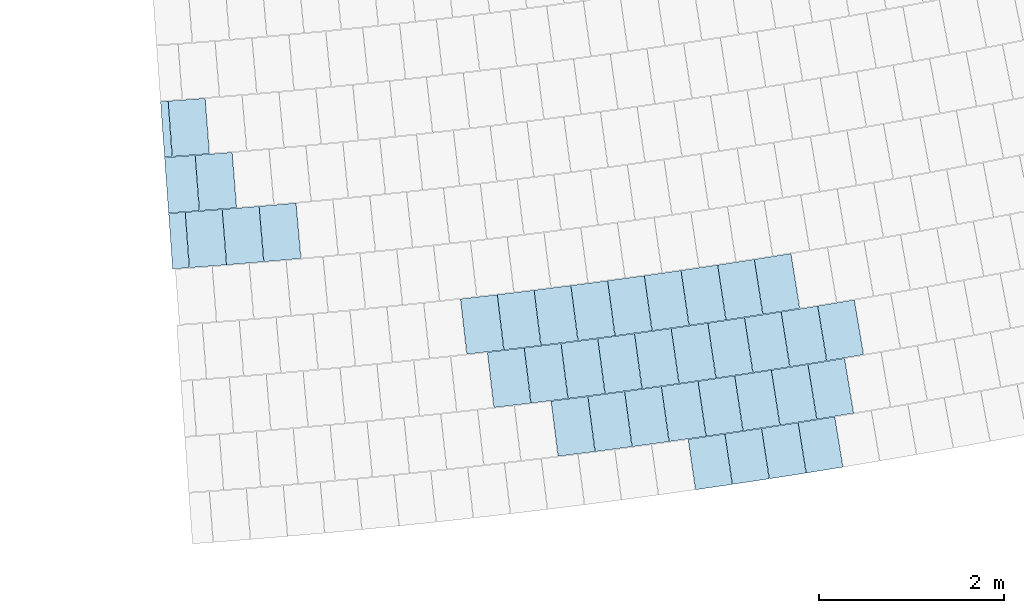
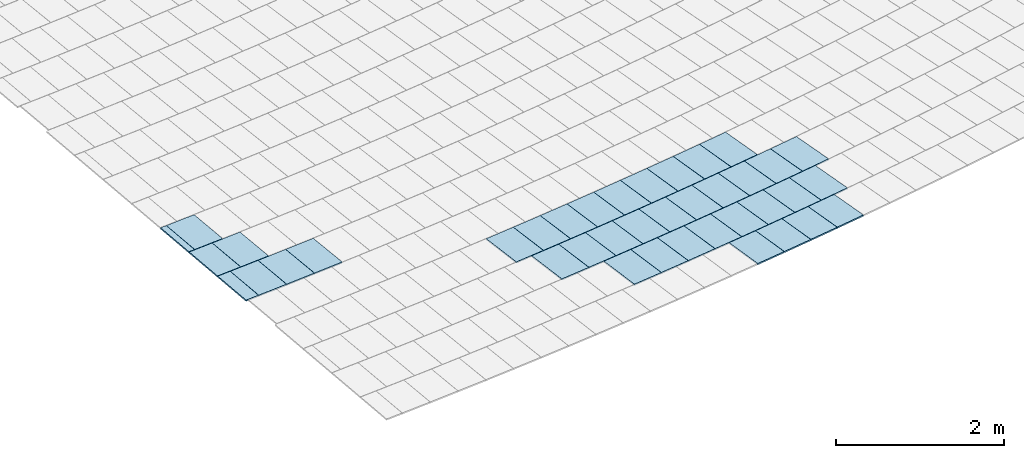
# One storey, part 24 of 438: 39 slabs.
"""IFC2X3 building model written with IfcOpenShell, lengths in millimetres."""

from ifc_helpers import new_model, entity, si_unit, converted_unit, derived_unit, direction, frame, origin, origin_2d_with_axis, place, context, subcontext, project, spatial, polyline, rectangle, outline, extrude, material, layer, layer_set, layer_usage, type_object, element, save


model = new_model("IFC2X3")

# Units and contexts
model_context = context("Model", 3, precision=0.01, world=origin(), true_north=direction((6.123031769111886e-17, 1.0)))
body_context = subcontext(model_context, "Body", "Model", "MODEL_VIEW")
ifc_project = project(units=[si_unit("LENGTHUNIT", "METRE", prefix="MILLI"), si_unit("AREAUNIT", "SQUARE_METRE"), si_unit("VOLUMEUNIT", "CUBIC_METRE"), converted_unit("PLANEANGLEUNIT", "DEGREE", entity("IfcRatioMeasure", 0.017453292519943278), si_unit("PLANEANGLEUNIT", "RADIAN"), dimensions=[0, 0, 0, 0, 0, 0, 0]), si_unit("MASSUNIT", "GRAM", prefix="KILO"), derived_unit("MASSDENSITYUNIT", [(si_unit("MASSUNIT", "GRAM", prefix="KILO"), 1), (si_unit("LENGTHUNIT", "METRE"), -3)]), derived_unit("MOMENTOFINERTIAUNIT", [(si_unit("LENGTHUNIT", "METRE"), 4)]), si_unit("TIMEUNIT", "SECOND"), si_unit("FREQUENCYUNIT", "HERTZ"), si_unit("THERMODYNAMICTEMPERATUREUNIT", "DEGREE_CELSIUS"), derived_unit("THERMALTRANSMITTANCEUNIT", [(si_unit("MASSUNIT", "GRAM", prefix="KILO"), 1), (si_unit("THERMODYNAMICTEMPERATUREUNIT", "KELVIN"), -1), (si_unit("TIMEUNIT", "SECOND"), -3)]), derived_unit("THERMALCONDUCTANCEUNIT", [(si_unit("MASSUNIT", "GRAM", prefix="KILO"), 1), (si_unit("LENGTHUNIT", "METRE"), 1), (si_unit("THERMODYNAMICTEMPERATUREUNIT", "KELVIN"), -1), (si_unit("TIMEUNIT", "SECOND"), -3)]), derived_unit("VOLUMETRICFLOWRATEUNIT", [(si_unit("LENGTHUNIT", "METRE"), 3), (si_unit("TIMEUNIT", "SECOND"), -1)]), derived_unit("MASSFLOWRATEUNIT", [(si_unit("MASSUNIT", "GRAM", prefix="KILO"), 1), (si_unit("TIMEUNIT", "SECOND"), -1)]), derived_unit("ROTATIONALFREQUENCYUNIT", [(si_unit("TIMEUNIT", "SECOND"), -1)]), si_unit("ELECTRICCURRENTUNIT", "AMPERE"), si_unit("ELECTRICVOLTAGEUNIT", "VOLT"), si_unit("POWERUNIT", "WATT"), converted_unit("FORCEUNIT", "KIP", entity("IfcRatioMeasure", 2.088543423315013e-05), si_unit("FORCEUNIT", "NEWTON"), dimensions=[1, 1, -2, 0, 0, 0, 0]), si_unit("ILLUMINANCEUNIT", "LUX"), si_unit("LUMINOUSFLUXUNIT", "LUMEN"), si_unit("LUMINOUSINTENSITYUNIT", "CANDELA"), derived_unit("USERDEFINED", [(si_unit("MASSUNIT", "GRAM", prefix="KILO"), -1), (si_unit("LENGTHUNIT", "METRE"), -2), (si_unit("TIMEUNIT", "SECOND"), 3), (si_unit("LUMINOUSFLUXUNIT", "LUMEN"), 1)]), derived_unit("USERDEFINED", [(si_unit("MASSUNIT", "GRAM", prefix="KILO"), 1), (si_unit("LENGTHUNIT", "METRE"), 3), (si_unit("TIMEUNIT", "SECOND"), -3), (si_unit("ELECTRICCURRENTUNIT", "AMPERE"), -2)]), derived_unit("USERDEFINED", [(si_unit("LENGTHUNIT", "METRE"), 2), (si_unit("TIMEUNIT", "SECOND"), -2)]), derived_unit("SOUNDPOWERUNIT", [(si_unit("MASSUNIT", "GRAM", prefix="KILO"), 1), (si_unit("LENGTHUNIT", "METRE"), 2), (si_unit("TIMEUNIT", "SECOND"), -3)]), derived_unit("SOUNDPRESSUREUNIT", [(si_unit("MASSUNIT", "GRAM", prefix="KILO"), 1), (si_unit("LENGTHUNIT", "METRE"), -1), (si_unit("TIMEUNIT", "SECOND"), -2)]), derived_unit("LINEARVELOCITYUNIT", [(si_unit("LENGTHUNIT", "METRE"), 1), (si_unit("TIMEUNIT", "SECOND"), -1)]), si_unit("PRESSUREUNIT", "PASCAL"), derived_unit("USERDEFINED", [(si_unit("LENGTHUNIT", "METRE"), -2), (si_unit("MASSUNIT", "GRAM", prefix="KILO"), 1), (si_unit("TIMEUNIT", "SECOND"), -2)]), derived_unit("LINEARFORCEUNIT", [(si_unit("MASSUNIT", "GRAM", prefix="KILO"), 1), (si_unit("LENGTHUNIT", "METRE"), 1), (si_unit("TIMEUNIT", "SECOND"), -2), (si_unit("LENGTHUNIT", "METRE"), -1)]), derived_unit("PLANARFORCEUNIT", [(si_unit("MASSUNIT", "GRAM", prefix="KILO"), 1), (si_unit("LENGTHUNIT", "METRE"), 1), (si_unit("TIMEUNIT", "SECOND"), -2), (si_unit("LENGTHUNIT", "METRE"), -2)]), derived_unit("SPECIFICHEATCAPACITYUNIT", [(si_unit("LENGTHUNIT", "METRE"), 2), (si_unit("TIMEUNIT", "SECOND"), -2), (si_unit("THERMODYNAMICTEMPERATUREUNIT", "KELVIN"), -1)]), derived_unit("VAPORPERMEABILITYUNIT", [(si_unit("TIMEUNIT", "SECOND"), 1), (si_unit("LENGTHUNIT", "METRE"), -1)]), derived_unit("DYNAMICVISCOSITYUNIT", [(si_unit("MASSUNIT", "GRAM", prefix="KILO"), 1), (si_unit("LENGTHUNIT", "METRE"), -1), (si_unit("TIMEUNIT", "SECOND"), -1)]), derived_unit("THERMALEXPANSIONCOEFFICIENTUNIT", [(si_unit("THERMODYNAMICTEMPERATUREUNIT", "KELVIN"), -1)])], contexts=[model_context])

# Site, building, storey
site_placement = place(None, frame((0.0, 0.0, 0.0), z_axis=(0.0, 0.0, 1.0), x_axis=(0.8191520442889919, 0.5735764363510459, 0.0)))
site = spatial("IfcSite", under=ifc_project, at=site_placement, Name="Default", CompositionType="ELEMENT")
building_placement = place(site_placement, origin())
building = spatial("IfcBuilding", under=site, at=building_placement, CompositionType="ELEMENT")
storey_placement = place(building_placement, origin())
storey = spatial("IfcBuildingStorey", under=building, at=storey_placement, Name="PLAN", CompositionType="ELEMENT", Elevation=0.0)

# Slabs
ifc_material = material(Name="Paint-01")
ifc_layer = layer(ifc_material, 20.00000000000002)
ifc_layer_set = layer_set([ifc_layer], Name="Floor:Slab-179:1000")
ifc_layer_usage = layer_usage(ifc_layer_set, "AXIS3", "POSITIVE", 0.0)
slab_type = type_object("IfcSlabType", Name="Floor:Slab-179:1000", PredefinedType="FLOOR", material=ifc_layer_set)
slab_1_placement = place(storey_placement, origin())
element("IfcSlab", 1, at=slab_1_placement, inside=storey, type_object=slab_type, material=ifc_layer_usage, Name="Floor:Slab-179:1000", ObjectType="Floor:Slab-179:1000", PredefinedType="FLOOR", context=body_context, shape_type="SweptSolid", body=[
    extrude(outline(polyline([(-274.99999893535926, -200.00000294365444), (275.0000010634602, -200.00000294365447), (274.99999893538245, 200.00000294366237), (-275.00000106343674, 200.00000294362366), (-274.99999893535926, -200.00000294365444)])), frame((-74537.65126029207, -137736.36598503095, 20.0), z_axis=(0.0, 0.0, -1.0), x_axis=(-0.44021275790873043, -0.8978934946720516, 0.0)), (0.0, 0.0, 1.0), 20.00000000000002),
])
slab_2_placement = place(storey_placement, origin())
element("IfcSlab", 2, at=slab_2_placement, inside=storey, type_object=slab_type, material=ifc_layer_usage, Name="Floor:Slab-179:1000", ObjectType="Floor:Slab-179:1000", PredefinedType="FLOOR", context=body_context, shape_type="SweptSolid", body=[
    extrude(outline(polyline([(-274.999998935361, -200.00000294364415), (275.0000010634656, -200.00000294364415), (274.9999989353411, 200.00000294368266), (-275.00000106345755, 200.000002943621), (-274.999998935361, -200.00000294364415)])), frame((-74176.76469035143, -137912.14439083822, 20.0), z_axis=(0.0, 0.0, -1.0), x_axis=(-0.4355696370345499, -0.9001550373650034, 0.0)), (0.0, 0.0, 1.0), 20.00000000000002),
])
slab_3_placement = place(storey_placement, origin())
element("IfcSlab", 3, at=slab_3_placement, inside=storey, type_object=slab_type, material=ifc_layer_usage, Name="Floor:Slab-179:1000", ObjectType="Floor:Slab-179:1000", PredefinedType="FLOOR", context=body_context, shape_type="SweptSolid", body=[
    extrude(outline(polyline([(-275.00000106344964, -200.00000294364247), (274.9999989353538, -200.0000029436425), (275.00000106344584, 200.00000294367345), (-274.9999989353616, 200.00000294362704), (-275.00000106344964, -200.00000294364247)])), frame((-75256.67689044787, -137379.22945315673, 20.0), z_axis=(0.0, 0.0, -1.0), x_axis=(-0.44946365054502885, -0.893298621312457, 0.0)), (0.0, 0.0, 1.0), 20.000000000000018),
])
slab_4_placement = place(storey_placement, origin())
element("IfcSlab", 4, at=slab_4_placement, inside=storey, type_object=slab_type, material=ifc_layer_usage, Name="Floor:Slab-179:1000", ObjectType="Floor:Slab-179:1000", PredefinedType="FLOOR", context=body_context, shape_type="SweptSolid", body=[
    extrude(outline(polyline([(-299.999998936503, -200.00000294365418), (300.00000106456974, -200.00000294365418), (299.9999989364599, 200.0000029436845), (-300.0000010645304, 200.00000294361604), (-299.999998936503, -200.00000294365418)])), frame((-73739.0465075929, -137479.31126538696, 20.0), z_axis=(0.0, 0.0, -1.0), x_axis=(-0.4331704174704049, -0.9013120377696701, 0.0)), (0.0, 0.0, 1.0), 20.00000000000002),
])
slab_5_placement = place(storey_placement, origin())
element("IfcSlab", 5, at=slab_5_placement, inside=storey, type_object=slab_type, material=ifc_layer_usage, Name="Floor:Slab-179:1000", ObjectType="Floor:Slab-179:1000", PredefinedType="FLOOR", context=body_context, shape_type="SweptSolid", body=[
    extrude(outline(polyline([(-299.99999893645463, -200.0000029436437), (300.00000106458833, -200.0000029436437), (299.99999893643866, 200.00000294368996), (-300.0000010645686, 200.00000294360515), (-299.99999893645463, -200.0000029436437)])), frame((-74100.52363936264, -137304.42586794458, 20.0), z_axis=(0.0, 0.0, -1.0), x_axis=(-0.43785610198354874, -0.8990450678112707, 0.0)), (0.0, 0.0, 1.0), 20.000000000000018),
])
slab_6_placement = place(storey_placement, origin())
element("IfcSlab", 6, at=slab_6_placement, inside=storey, type_object=slab_type, material=ifc_layer_usage, Name="Floor:Slab-179:1000", ObjectType="Floor:Slab-179:1000", PredefinedType="FLOOR", context=body_context, shape_type="SweptSolid", body=[
    extrude(outline(polyline([(-300.0000010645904, -200.00000294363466), (299.99999893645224, -200.00000294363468), (300.00000106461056, 200.00000294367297), (-299.99999893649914, 200.00000294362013), (-300.0000010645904, -200.00000294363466)])), frame((-76249.82578706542, -136215.81949933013, 20.0), z_axis=(0.0, 0.0, -1.0), x_axis=(-0.4657166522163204, -0.8849338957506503, 0.0)), (0.0, 0.0, 1.0), 20.00000000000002),
])
slab_7_placement = place(storey_placement, origin())
element("IfcSlab", 7, at=slab_7_placement, inside=storey, type_object=slab_type, material=ifc_layer_usage, Name="Floor:Slab-179:1000", ObjectType="Floor:Slab-179:1000", PredefinedType="FLOOR", context=body_context, shape_type="SweptSolid", body=[
    extrude(outline(polyline([(-300.0000010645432, -200.00000294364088), (299.9999989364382, -200.00000294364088), (300.00000106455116, 200.00000294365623), (-299.9999989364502, 200.0000029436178), (-300.0000010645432, -200.00000294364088)])), frame((-75893.98600416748, -136401.90729564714, 20.0), z_axis=(0.0, 0.0, -1.0), x_axis=(-0.4611040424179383, -0.8873460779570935, 0.0)), (0.0, 0.0, 1.0), 20.000000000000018),
])
slab_8_placement = place(storey_placement, origin())
element("IfcSlab", 8, at=slab_8_placement, inside=storey, type_object=slab_type, material=ifc_layer_usage, Name="Floor:Slab-179:1000", ObjectType="Floor:Slab-179:1000", PredefinedType="FLOOR", context=body_context, shape_type="SweptSolid", body=[
    extrude(outline(polyline([(-300.00000106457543, -200.00000294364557), (299.99999893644, -200.0000029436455), (300.0000010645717, 200.00000294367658), (-299.99999893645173, 200.00000294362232), (-300.00000106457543, -200.00000294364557)])), frame((-75179.4246685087, -136768.51363036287, 20.0), z_axis=(0.0, 0.0, -1.0), x_axis=(-0.451841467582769, -0.8920982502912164, 0.0)), (0.0, 0.0, 1.0), 20.000000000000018),
])
slab_9_placement = place(storey_placement, origin())
element("IfcSlab", 9, at=slab_9_placement, inside=storey, type_object=slab_type, material=ifc_layer_usage, Name="Floor:Slab-179:1000", ObjectType="Floor:Slab-179:1000", PredefinedType="FLOOR", context=body_context, shape_type="SweptSolid", body=[
    extrude(outline(polyline([(-300.0000010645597, -200.0000029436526), (299.9999989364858, -200.0000029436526), (300.0000010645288, 200.0000029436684), (-299.99999893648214, 200.00000294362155), (-300.0000010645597, -200.0000029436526)])), frame((-75537.18240880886, -136586.1403365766, 20.0), z_axis=(0.0, 0.0, -1.0), x_axis=(-0.4564789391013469, -0.8897342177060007, 0.0)), (0.0, 0.0, 1.0), 20.00000000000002),
])
slab_10_placement = place(storey_placement, origin())
element("IfcSlab", 10, at=slab_10_placement, inside=storey, type_object=slab_type, material=ifc_layer_usage, Name="Floor:Slab-179:1000", ObjectType="Floor:Slab-179:1000", PredefinedType="FLOOR", context=body_context, shape_type="SweptSolid", body=[
    extrude(outline(polyline([(-300.00000106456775, -200.00000294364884), (299.9999989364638, -200.00000294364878), (300.00000106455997, 200.00000294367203), (-299.99999893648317, 200.00000294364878), (-300.00000106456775, -200.00000294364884)])), frame((-74820.72247663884, -136949.02223563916, 20.0), z_axis=(0.0, 0.0, -1.0), x_axis=(-0.4471917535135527, -0.8944381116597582, 0.0)), (0.0, 0.0, 1.0), 20.00000000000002),
])
slab_11_placement = place(storey_placement, origin())
element("IfcSlab", 11, at=slab_11_placement, inside=storey, type_object=slab_type, material=ifc_layer_usage, Name="Floor:Slab-179:1000", ObjectType="Floor:Slab-179:1000", PredefinedType="FLOOR", context=body_context, shape_type="SweptSolid", body=[
    extrude(outline(polyline([(-299.999998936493, -200.0000029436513), (300.0000010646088, -200.0000029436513), (299.99999893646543, 200.00000294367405), (-300.0000010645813, 200.00000294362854), (-299.999998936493, -200.0000029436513)])), frame((-73290.1868208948, -137023.4785971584, 20.0), z_axis=(0.0, 0.0, -1.0), x_axis=(-0.4307299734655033, -0.9024808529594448, 0.0)), (0.0, 0.0, 1.0), 20.000000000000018),
])
slab_12_placement = place(storey_placement, origin())
element("IfcSlab", 12, at=slab_12_placement, inside=storey, type_object=slab_type, material=ifc_layer_usage, Name="Floor:Slab-179:1000", ObjectType="Floor:Slab-179:1000", PredefinedType="FLOOR", context=body_context, shape_type="SweptSolid", body=[
    extrude(outline(polyline([(-299.9999989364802, -200.0000029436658), (300.0000010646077, -200.0000029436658), (299.99999893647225, 200.00000294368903), (-300.0000010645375, 200.00000294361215), (-299.9999989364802, -200.0000029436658)])), frame((-74013.18253833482, -136673.74302650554, 20.0), z_axis=(0.0, 0.0, -1.0), x_axis=(-0.4401759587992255, -0.8979115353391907, 0.0)), (0.0, 0.0, 1.0), 20.000000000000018),
])
slab_13_placement = place(storey_placement, origin())
element("IfcSlab", 13, at=slab_13_placement, inside=storey, type_object=slab_type, material=ifc_layer_usage, Name="Floor:Slab-179:1000", ObjectType="Floor:Slab-179:1000", PredefinedType="FLOOR", context=body_context, shape_type="SweptSolid", body=[
    extrude(outline(polyline([(-299.99999893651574, -200.00000294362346), (300.0000010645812, -200.00000294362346), (299.9999989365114, 200.00000294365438), (-300.0000010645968, 200.000002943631), (-299.99999893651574, -200.00000294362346)])), frame((-73652.14340938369, -136849.55912732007, 20.0), z_axis=(0.0, 0.0, -1.0), x_axis=(-0.43545895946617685, -0.900208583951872, 0.0)), (0.0, 0.0, 1.0), 20.00000000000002),
])
slab_14_placement = place(storey_placement, origin())
element("IfcSlab", 14, at=slab_14_placement, inside=storey, type_object=slab_type, material=ifc_layer_usage, Name="Floor:Slab-179:1000", ObjectType="Floor:Slab-179:1000", PredefinedType="FLOOR", context=body_context, shape_type="SweptSolid", body=[
    extrude(outline(polyline([(-300.00000106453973, -200.00000294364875), (299.9999989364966, -200.00000294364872), (300.0000010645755, 200.00000294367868), (-299.99999893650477, 200.00000294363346), (-300.00000106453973, -200.00000294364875)])), frame((-76513.93602027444, -135390.3377245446, 20.0), z_axis=(0.0, 0.0, -1.0), x_axis=(-0.4728484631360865, -0.8811437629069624, 0.0)), (0.0, 0.0, 1.0), 20.00000000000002),
])
slab_15_placement = place(storey_placement, origin())
element("IfcSlab", 15, at=slab_15_placement, inside=storey, type_object=slab_type, material=ifc_layer_usage, Name="Floor:Slab-179:1000", ObjectType="Floor:Slab-179:1000", PredefinedType="FLOOR", context=body_context, shape_type="SweptSolid", body=[
    extrude(outline(polyline([(-300.0000010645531, -200.00000294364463), (299.99999893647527, -200.0000029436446), (300.0000010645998, 200.00000294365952), (-299.999998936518, 200.0000029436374), (-300.0000010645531, -200.00000294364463)])), frame((-75447.96608034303, -135951.60988588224, 20.0), z_axis=(0.0, 0.0, -1.0), x_axis=(-0.4589214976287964, -0.8884768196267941, 0.0)), (0.0, 0.0, 1.0), 20.00000000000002),
])
slab_16_placement = place(storey_placement, origin())
element("IfcSlab", 16, at=slab_16_placement, inside=storey, type_object=slab_type, material=ifc_layer_usage, Name="Floor:Slab-179:1000", ObjectType="Floor:Slab-179:1000", PredefinedType="FLOOR", context=body_context, shape_type="SweptSolid", body=[
    extrude(outline(polyline([(-300.000001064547, -200.00000294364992), (299.9999989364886, -200.00000294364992), (300.0000010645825, 200.00000294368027), (-299.9999989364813, 200.0000029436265), (-300.000001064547, -200.00000294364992)])), frame((-75804.26935401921, -135766.38426371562, 20.0), z_axis=(0.0, 0.0, -1.0), x_axis=(-0.46357662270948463, -0.8860568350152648, 0.0)), (0.0, 0.0, 1.0), 20.00000000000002),
])
slab_17_placement = place(storey_placement, origin())
element("IfcSlab", 17, at=slab_17_placement, inside=storey, type_object=slab_type, material=ifc_layer_usage, Name="Floor:Slab-179:1000", ObjectType="Floor:Slab-179:1000", PredefinedType="FLOOR", context=body_context, shape_type="SweptSolid", body=[
    extrude(outline(polyline([(-300.00000106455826, -200.00000294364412), (299.99999893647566, -200.00000294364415), (300.00000106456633, 200.00000294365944), (-299.99999893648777, 200.00000294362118), (-300.00000106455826, -200.00000294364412)])), frame((-76159.59592763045, -135579.29182660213, 20.0), z_axis=(0.0, 0.0, -1.0), x_axis=(-0.4682189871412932, -0.8836124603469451, 0.0)), (0.0, 0.0, 1.0), 20.00000000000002),
])
slab_18_placement = place(storey_placement, origin())
element("IfcSlab", 18, at=slab_18_placement, inside=storey, type_object=slab_type, material=ifc_layer_usage, Name="Floor:Slab-179:1000", ObjectType="Floor:Slab-179:1000", PredefinedType="FLOOR", context=body_context, shape_type="SweptSolid", body=[
    extrude(outline(polyline([(-300.00000106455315, -200.00000294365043), (299.9999989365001, -200.00000294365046), (300.00000106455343, 200.00000294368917), (-299.99999893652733, 200.00000294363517), (-300.00000106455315, -200.00000294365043)])), frame((-75090.69591438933, -136134.96359448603, 20.0), z_axis=(0.0, 0.0, -1.0), x_axis=(-0.4542537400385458, -0.890872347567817, 0.0)), (0.0, 0.0, 1.0), 20.00000000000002),
])
slab_19_placement = place(storey_placement, origin())
element("IfcSlab", 19, at=slab_19_placement, inside=storey, type_object=slab_type, material=ifc_layer_usage, Name="Floor:Slab-179:1000", ObjectType="Floor:Slab-179:1000", PredefinedType="FLOOR", context=body_context, shape_type="SweptSolid", body=[
    extrude(outline(polyline([(-300.0000010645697, -200.0000029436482), (299.99999893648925, -200.00000294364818), (300.0000010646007, 200.00000294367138), (-299.9999989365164, 200.00000294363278), (-300.0000010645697, -200.0000029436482)])), frame((-74732.4686905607, -136316.44034243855, 20.0), z_axis=(0.0, 0.0, -1.0), x_axis=(-0.44957347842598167, -0.8932433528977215, 0.0)), (0.0, 0.0, 1.0), 20.00000000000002),
])
slab_20_placement = place(storey_placement, origin())
element("IfcSlab", 20, at=slab_20_placement, inside=storey, type_object=slab_type, material=ifc_layer_usage, Name="Floor:Slab-179:1000", ObjectType="Floor:Slab-179:1000", PredefinedType="FLOOR", context=body_context, shape_type="SweptSolid", body=[
    extrude(outline(polyline([(-299.9999989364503, -200.00000294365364), (300.0000010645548, -200.00000294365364), (299.99999893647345, 200.00000294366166), (-300.0000010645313, 200.00000294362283), (-299.9999989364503, -200.00000294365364)])), frame((-73565.03268069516, -136219.34980846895, 20.0), z_axis=(0.0, 0.0, -1.0), x_axis=(-0.43778123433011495, -0.8990815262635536, 0.0)), (0.0, 0.0, 1.0), 20.000000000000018),
])
slab_21_placement = place(storey_placement, origin())
element("IfcSlab", 21, at=slab_21_placement, inside=storey, type_object=slab_type, material=ifc_layer_usage, Name="Floor:Slab-179:1000", ObjectType="Floor:Slab-179:1000", PredefinedType="FLOOR", context=body_context, shape_type="SweptSolid", body=[
    extrude(outline(polyline([(-300.0000010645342, -200.00000294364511), (299.9999989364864, -200.00000294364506), (300.0000010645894, 200.00000294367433), (-299.9999989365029, 200.0000029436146), (-300.0000010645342, -200.00000294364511)])), frame((-76422.88892769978, -134752.22210764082, 20.0), z_axis=(0.0, 0.0, -1.0), x_axis=(-0.4754167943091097, -0.8797606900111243, 0.0)), (0.0, 0.0, 1.0), 20.00000000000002),
])
slab_22_placement = place(storey_placement, origin())
element("IfcSlab", 22, at=slab_22_placement, inside=storey, type_object=slab_type, material=ifc_layer_usage, Name="Floor:Slab-179:1000", ObjectType="Floor:Slab-179:1000", PredefinedType="FLOOR", context=body_context, shape_type="SweptSolid", body=[
    extrude(outline(polyline([(-300.0000010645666, -200.00000294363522), (299.99999893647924, -200.00000294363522), (300.0000010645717, 200.00000294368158), (-299.9999989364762, 200.00000294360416), (-300.0000010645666, -200.00000294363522)])), frame((-76069.08647272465, -134942.2075565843, 20.0), z_axis=(0.0, 0.0, -1.0), x_axis=(-0.47075751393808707, -0.8822626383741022, 0.0)), (0.0, 0.0, 1.0), 20.000000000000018),
])
slab_23_placement = place(storey_placement, origin())
element("IfcSlab", 23, at=slab_23_placement, inside=storey, type_object=slab_type, material=ifc_layer_usage, Name="Floor:Slab-179:1000", ObjectType="Floor:Slab-179:1000", PredefinedType="FLOOR", context=body_context, shape_type="SweptSolid", body=[
    extrude(outline(polyline([(-300.00000106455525, -200.00000294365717), (299.9999989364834, -200.0000029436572), (300.00000106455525, 200.00000294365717), (-299.99999893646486, 200.000002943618), (-300.00000106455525, -200.00000294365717)])), frame((-75714.28422359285, -135130.31925735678, 20.0), z_axis=(0.0, 0.0, -1.0), x_axis=(-0.4660850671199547, -0.8847399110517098, 0.0)), (0.0, 0.0, 1.0), 20.00000000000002),
])
slab_24_placement = place(storey_placement, origin())
element("IfcSlab", 24, at=slab_24_placement, inside=storey, type_object=slab_type, material=ifc_layer_usage, Name="Floor:Slab-179:1000", ObjectType="Floor:Slab-179:1000", PredefinedType="FLOOR", context=body_context, shape_type="SweptSolid", body=[
    extrude(outline(polyline([(-300.0000010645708, -200.00000294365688), (299.9999989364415, -200.00000294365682), (300.00000106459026, 200.00000294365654), (-299.9999989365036, 200.00000294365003), (-300.0000010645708, -200.00000294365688)])), frame((-75358.49210364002, -135316.5519487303, 20.0), z_axis=(0.0, 0.0, -1.0), x_axis=(-0.461399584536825, -0.8871924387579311, 0.0)), (0.0, 0.0, 1.0), 20.00000000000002),
])
slab_25_placement = place(storey_placement, origin())
element("IfcSlab", 25, at=slab_25_placement, inside=storey, type_object=slab_type, material=ifc_layer_usage, Name="Floor:Slab-179:1000", ObjectType="Floor:Slab-179:1000", PredefinedType="FLOOR", context=body_context, shape_type="SweptSolid", body=[
    extrude(outline(polyline([(-300.00000106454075, -200.00000294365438), (299.99999893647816, -200.0000029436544), (300.00000106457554, 200.00000294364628), (-299.99999893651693, 200.0000029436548), (-300.00000106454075, -200.00000294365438)])), frame((-75001.72006388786, -135500.90042202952, 20.0), z_axis=(0.0, 0.0, -1.0), x_axis=(-0.4567011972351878, -0.8896201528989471, 0.0)), (0.0, 0.0, 1.0), 20.00000000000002),
])
slab_26_placement = place(storey_placement, origin())
element("IfcSlab", 26, at=slab_26_placement, inside=storey, type_object=slab_type, material=ifc_layer_usage, Name="Floor:Slab-179:1000", ObjectType="Floor:Slab-179:1000", PredefinedType="FLOOR", context=body_context, shape_type="SweptSolid", body=[
    extrude(outline(polyline([(-300.0000010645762, -200.00000294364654), (299.99999893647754, -200.00000294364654), (300.00000106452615, 200.00000294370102), (-299.99999893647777, 200.00000294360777), (-300.0000010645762, -200.00000294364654)])), frame((-74643.97808276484, -135683.35952127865, 20.0), z_axis=(0.0, 0.0, -1.0), x_axis=(-0.45199003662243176, -0.892022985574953, 0.0)), (0.0, 0.0, 1.0), 20.00000000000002),
])
slab_27_placement = place(storey_placement, origin())
element("IfcSlab", 27, at=slab_27_placement, inside=storey, type_object=slab_type, material=ifc_layer_usage, Name="Floor:Slab-179:1000", ObjectType="Floor:Slab-179:1000", PredefinedType="FLOOR", context=body_context, shape_type="SweptSolid", body=[
    extrude(outline(polyline([(-300.00000106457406, -200.00000294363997), (299.99999893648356, -200.00000294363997), (300.00000106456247, 200.00000294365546), (-299.99999893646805, 200.0000029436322), (-300.00000106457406, -200.00000294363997)])), frame((-74285.27616582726, -135863.924143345, 20.0), z_axis=(0.0, 0.0, -1.0), x_axis=(-0.4472662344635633, -0.8944008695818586, 0.0)), (0.0, 0.0, 1.0), 20.00000000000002),
])
slab_28_placement = place(storey_placement, origin())
element("IfcSlab", 28, at=slab_28_placement, inside=storey, type_object=slab_type, material=ifc_layer_usage, Name="Floor:Slab-179:1000", ObjectType="Floor:Slab-179:1000", PredefinedType="FLOOR", context=body_context, shape_type="SweptSolid", body=[
    extrude(outline(polyline([(-300.0, -89.58279997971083), (300.0, -89.58279997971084), (300.0, 89.49915567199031), (-300.0, 89.66644428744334), (-300.0, -89.58279997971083)])), frame((-78584.3502830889, -132133.56720054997, 20.0), z_axis=(0.0, 0.0, -1.0), x_axis=(-0.513308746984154, -0.85820401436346, 0.0)), (0.0, 0.0, 1.0), 20.00000000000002),
])
slab_29_placement = place(storey_placement, origin())
element("IfcSlab", 29, at=slab_29_placement, inside=storey, type_object=slab_type, material=ifc_layer_usage, Name="Floor:Slab-179:1000", ObjectType="Floor:Slab-179:1000", PredefinedType="FLOOR", context=body_context, shape_type="SweptSolid", body=[
    extrude(outline(polyline([(-300.0000010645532, -200.00000294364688), (299.9999989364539, -200.0000029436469), (300.00000106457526, 200.00000294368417), (-299.9999989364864, 200.00000294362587), (-300.0000010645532, -200.00000294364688)])), frame((-78333.89393371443, -132282.11253547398, 20.0), z_axis=(0.0, 0.0, -1.0), x_axis=(-0.5086889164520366, -0.8609503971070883, 0.0)), (0.0, 0.0, 1.0), 20.00000000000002),
])
slab_30_placement = place(storey_placement, origin())
element("IfcSlab", 30, at=slab_30_placement, inside=storey, type_object=slab_type, material=ifc_layer_usage, Name="Floor:Slab-179:1000", ObjectType="Floor:Slab-179:1000", PredefinedType="FLOOR", context=body_context, shape_type="SweptSolid", body=[
    extrude(outline(polyline([(-300.0000010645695, -200.00000294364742), (299.99999893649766, -200.00000294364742), (300.00000106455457, 200.00000294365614), (-299.99999893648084, 200.0000029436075), (-300.0000010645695, -200.00000294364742)])), frame((-77987.57910976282, -132485.4776543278, 20.0), z_axis=(0.0, 0.0, -1.0), x_axis=(-0.5040543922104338, -0.8636719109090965, 0.0)), (0.0, 0.0, 1.0), 20.00000000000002),
])
slab_31_placement = place(storey_placement, origin())
element("IfcSlab", 31, at=slab_31_placement, inside=storey, type_object=slab_type, material=ifc_layer_usage, Name="Floor:Slab-179:1000", ObjectType="Floor:Slab-179:1000", PredefinedType="FLOOR", context=body_context, shape_type="SweptSolid", body=[
    extrude(rectangle(XDim=599.9998585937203, YDim=399.9999116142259, at=origin_2d_with_axis()), frame((-77640.28601801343, -132686.75666825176, 20.0), z_axis=(0.0, 0.0, -1.0), x_axis=(-0.4999999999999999, -0.8660254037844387, 0.0)), (0.0, 0.0, 1.0), 20.00000000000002),
])
slab_32_placement = place(storey_placement, origin())
element("IfcSlab", 32, at=slab_32_placement, inside=storey, type_object=slab_type, material=ifc_layer_usage, Name="Floor:Slab-179:1000", ObjectType="Floor:Slab-179:1000", PredefinedType="FLOOR", context=body_context, shape_type="SweptSolid", body=[
    extrude(outline(polyline([(-300.00000088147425, -165.5874638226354), (299.99999911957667, -165.58746382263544), (300.0000008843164, 166.11839309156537), (-299.99999912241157, 165.05653455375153), (-300.00000088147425, -165.5874638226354)])), frame((-78208.59999836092, -131653.0869068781, 20.0), z_axis=(0.0, 0.0, -1.0), x_axis=(-0.5115495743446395, -0.8592537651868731, 0.0)), (0.0, 0.0, 1.0), 20.00000000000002),
])
slab_33_placement = place(storey_placement, origin())
element("IfcSlab", 33, at=slab_33_placement, inside=storey, type_object=slab_type, material=ifc_layer_usage, Name="Floor:Slab-179:1000", ObjectType="Floor:Slab-179:1000", PredefinedType="FLOOR", context=body_context, shape_type="SweptSolid", body=[
    extrude(outline(polyline([(-300.00000106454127, -200.0000029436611), (299.9999989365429, -200.0000029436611), (300.00000106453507, 200.0000029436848), (-299.99999893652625, 200.00000294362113), (-300.00000106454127, -200.0000029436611)])), frame((-77892.51671821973, -131839.99810907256, 20.0), z_axis=(0.0, 0.0, -1.0), x_axis=(-0.5068861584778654, -0.8620130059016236, 0.0)), (0.0, 0.0, 1.0), 20.000000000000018),
])
slab_34_placement = place(storey_placement, origin())
element("IfcSlab", 34, at=slab_34_placement, inside=storey, type_object=slab_type, material=ifc_layer_usage, Name="Floor:Slab-179:1000", ObjectType="Floor:Slab-179:1000", PredefinedType="FLOOR", context=body_context, shape_type="SweptSolid", body=[
    extrude(outline(polyline([(-300.0, -40.77800479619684), (300.0, -40.77800479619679), (300.0, 40.29465856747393), (-300.0, 41.26135102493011), (-300.0, -40.77800479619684)])), frame((-78005.49610655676, -131070.04129692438, 20.0), z_axis=(0.0, 0.0, -1.0), x_axis=(-0.5144517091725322, -0.8575193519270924, 0.0)), (0.0, 0.0, 1.0), 20.000000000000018),
])
slab_35_placement = place(storey_placement, origin())
element("IfcSlab", 35, at=slab_35_placement, inside=storey, type_object=slab_type, material=ifc_layer_usage, Name="Floor:Slab-179:1000", ObjectType="Floor:Slab-179:1000", PredefinedType="FLOOR", context=body_context, shape_type="SweptSolid", body=[
    extrude(outline(polyline([(-300.00000106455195, -200.0000029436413), (299.999998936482, -200.00000294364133), (300.0000010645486, 200.00000294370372), (-299.9999989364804, 200.00000294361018), (-300.00000106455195, -200.0000029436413)])), frame((-77797.05696816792, -131193.8107841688, 20.0), z_axis=(0.0, 0.0, -1.0), x_axis=(-0.5097591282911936, -0.8603171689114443, 0.0)), (0.0, 0.0, 1.0), 20.00000000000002),
])
slab_36_placement = place(storey_placement, origin())
element("IfcSlab", 36, at=slab_36_placement, inside=storey, type_object=slab_type, material=ifc_layer_usage, Name="Floor:Slab-179:1000", ObjectType="Floor:Slab-179:1000", PredefinedType="FLOOR", context=body_context, shape_type="SweptSolid", body=[
    extrude(outline(polyline([(-300.0000010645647, -200.00000294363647), (299.9999989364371, -200.00000294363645), (300.00000106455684, 200.00000294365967), (-299.999998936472, 200.00000294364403), (-300.0000010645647, -200.00000294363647)])), frame((-74461.08555216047, -137127.66126156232, 20.0), z_axis=(0.0, 0.0, -1.0), x_axis=(-0.44252992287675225, -0.8967537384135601, 0.0)), (0.0, 0.0, 1.0), 20.00000000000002),
])
slab_37_placement = place(storey_placement, origin())
element("IfcSlab", 37, at=slab_37_placement, inside=storey, type_object=slab_type, material=ifc_layer_usage, Name="Floor:Slab-179:1000", ObjectType="Floor:Slab-179:1000", PredefinedType="FLOOR", context=body_context, shape_type="SweptSolid", body=[
    extrude(outline(polyline([(-300.0000010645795, -200.00000294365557), (299.9999989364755, -200.0000029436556), (300.0000010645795, 200.00000294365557), (-299.99999893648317, 200.00000294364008), (-300.0000010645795, -200.00000294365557)])), frame((-74373.29426960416, -136496.0351343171, 20.0), z_axis=(0.0, 0.0, -1.0), x_axis=(-0.4448808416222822, -0.8955897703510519, 0.0)), (0.0, 0.0, 1.0), 20.00000000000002),
])
slab_38_placement = place(storey_placement, origin())
element("IfcSlab", 38, at=slab_38_placement, inside=storey, type_object=slab_type, material=ifc_layer_usage, Name="Floor:Slab-179:1000", ObjectType="Floor:Slab-179:1000", PredefinedType="FLOOR", context=body_context, shape_type="SweptSolid", body=[
    extrude(outline(polyline([(-275.0000010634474, -200.00000294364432), (274.99999893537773, -200.00000294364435), (275.0000010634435, 200.00000294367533), (-274.9999989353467, 200.00000294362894), (-275.0000010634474, -200.00000294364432)])), frame((-74897.62519420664, -137558.7260930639, 20.0), z_axis=(0.0, 0.0, -1.0), x_axis=(-0.44484413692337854, -0.8956080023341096, 0.0)), (0.0, 0.0, 1.0), 20.00000000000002),
])
slab_39_placement = place(storey_placement, origin())
element("IfcSlab", 39, at=slab_39_placement, inside=storey, type_object=slab_type, material=ifc_layer_usage, Name="Floor:Slab-179:1000", ObjectType="Floor:Slab-179:1000", PredefinedType="FLOOR", context=body_context, shape_type="SweptSolid", body=[
    extrude(outline(polyline([(-300.0000010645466, -200.00000294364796), (299.9999989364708, -200.00000294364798), (300.0000010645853, 200.00000294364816), (-299.9999989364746, 200.00000294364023), (-300.0000010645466, -200.00000294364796)])), frame((-73925.62434547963, -136042.5892380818, 20.0), z_axis=(0.0, 0.0, -1.0), x_axis=(-0.4425299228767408, -0.8967537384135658, 0.0)), (0.0, 0.0, 1.0), 20.00000000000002),
])

save(model, "model.ifc")
